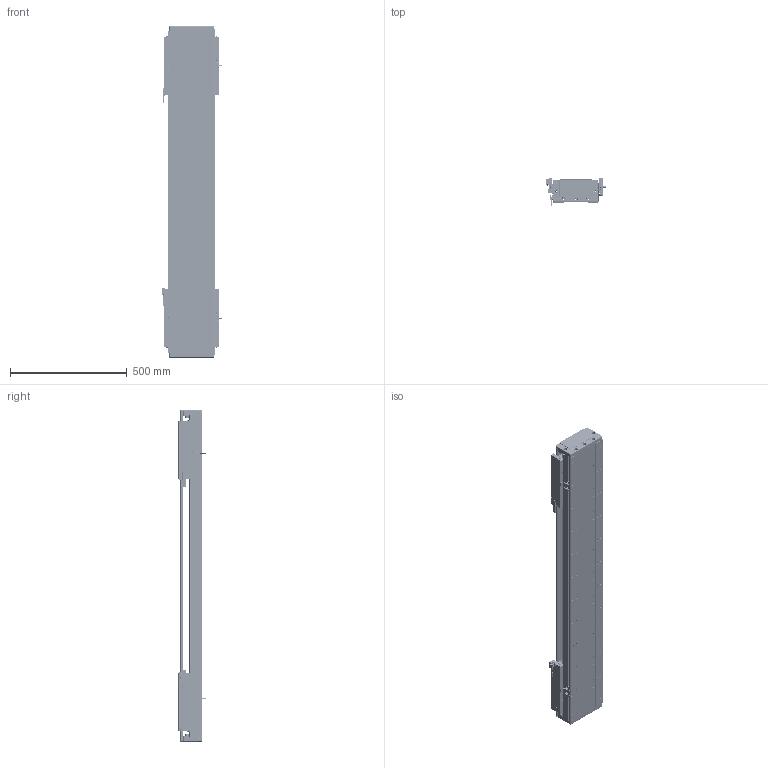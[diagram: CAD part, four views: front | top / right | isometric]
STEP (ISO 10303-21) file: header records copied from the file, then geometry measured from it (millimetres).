
FILE_DESCRIPTION (( 'STEP AP203' ), '1' );
FILE_NAME ('DA-C195-2-C3-T800-C010-0.2 眻盄萇儂.STEP', '2025-08-14T02:26:06', ( '' ), ( '' ), 'SwSTEP 2.0', 'SolidWorks 2019', '' );
FILE_SCHEMA (( 'CONFIG_CONTROL_DESIGN' ));
Length unit declared in the file: millimetre
Products named in the file (16): DKW168-HXJ-ZJ-00 笢潔滅袉砎蝶; PM-T45ㄗ侂狟ㄘ; DA195-DG-H-00  端盖（压铸镂空版）; IU-CU195-L-00 菁釱(L1380); PM-Y65嫖萇羲壽郪璃; MS200 棠掑喜S315-T240; LMT黍杅芛; DA-C195-2-C3-T800-C010-0.2 眻盄萇儂; DA165-GYP-00 光电感应片(默认); CU195-C3賑輸-俋楷; 葩璃 DA95-GT-T-00; IU-CU195-L 菁釱絳寢; DKW-GYP-ZJ-00 笢潔嫖萇覜茼え; DA95-HXJ-00 遣喳砎蝶; DKW-KGZ-ZJ-00 中间光电开关支架; 66156-0001-003-00 裔啣
Assembly tree (28 placements, depth 3):
  DA-C195-2-C3-T800-C010-0.2 眻盄萇儂
    IU-CU195-L 菁釱絳寢
      IU-CU195-L-00 菁釱(L1380)
      葩璃 DA95-GT-T-00  x4
    LMT黍杅芛  x2
    MS200 棠掑喜S315-T240
    PM-T45ㄗ侂狟ㄘ  x4
    DA165-GYP-00 光电感应片(默认)  x2
    DA195-DG-H-00  端盖（压铸镂空版）  x2
    DA95-HXJ-00 遣喳砎蝶  x4
    PM-Y65嫖萇羲壽郪璃
    66156-0001-003-00 裔啣
    DKW168-HXJ-ZJ-00 笢潔滅袉砎蝶
    DKW-GYP-ZJ-00 笢潔嫖萇覜茼え
    DKW-KGZ-ZJ-00 中间光电开关支架
    CU195-C3賑輸-俋楷  x2
Bounding box: 258.2 x 115.6 x 1420 mm (x, y, z)
Volume: 11662637.1 mm3; surface area: 3205843.4 mm2
Topology: 146 solids, 218 shells, 7862 faces, 20008 edges, 12199 vertices
Faces by surface type: cylinder 3288, plane 2790, cone 914, bspline 718, torus 80, sphere 72
Entity records: 160031 total; most frequent: CARTESIAN_POINT 49330, ORIENTED_EDGE 23202, DIRECTION 21936, EDGE_CURVE 11601, AXIS2_PLACEMENT_3D 8007, VERTEX_POINT 7352, LINE 5922, VECTOR 5922
